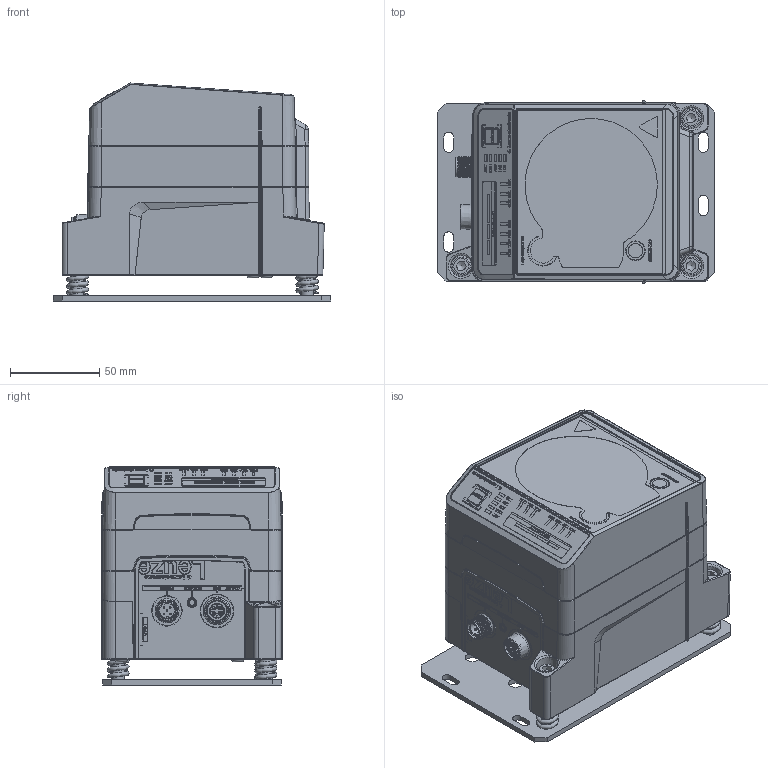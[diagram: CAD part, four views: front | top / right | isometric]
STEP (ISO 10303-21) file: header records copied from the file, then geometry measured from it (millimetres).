
FILE_DESCRIPTION(/* description */ (''),/* implementation_level */ '2;1');
FILE_NAME(/* name */ '3DCAD_DDLS500_200m.stp',/* time_stamp */ '2016-07-01T09:46:02+02:00',/* author */ ('CC2'),/* organization */ ('Leuze electronic'),/* preprocessor_version */ 'ST-DEVELOPER v15',/* originating_system */ 'SIEMENS PLM Software NX 8.5',/* authorisation */ '');
FILE_SCHEMA (('AUTOMOTIVE_DESIGN { 1 0 10303 214 3 1 1 1 }'));
Products named in the file (1): 009570_00.0
Bounding box: 156 x 102.2 x 122.48 mm (x, y, z)
Volume: 1289244.3 mm3; surface area: 122896.8 mm2
Topology: 1 solids, 1 shells, 3010 faces, 7826 edges, 5079 vertices
Faces by surface type: plane 1772, bspline 791, cylinder 317, cone 54, torus 43, revolution 16, extrusion 9, sphere 8
Full cylindrical faces by diameter (mm): 0.586 x1, 0.595 x1, 1 x5, 3.838 x2, 5 x4, 7 x2, 7.11 x3, 8 x6, 8.5 x4, 10 x3, 10.8 x7, 11.1 x7, 12 x8
Entity records: 119376 total; most frequent: CARTESIAN_POINT 45684, ORIENTED_EDGE 15192, DIRECTION 11326, EDGE_CURVE 7596, VECTOR 5170, LINE 5161, VERTEX_POINT 4988, EDGE_LOOP 3385
